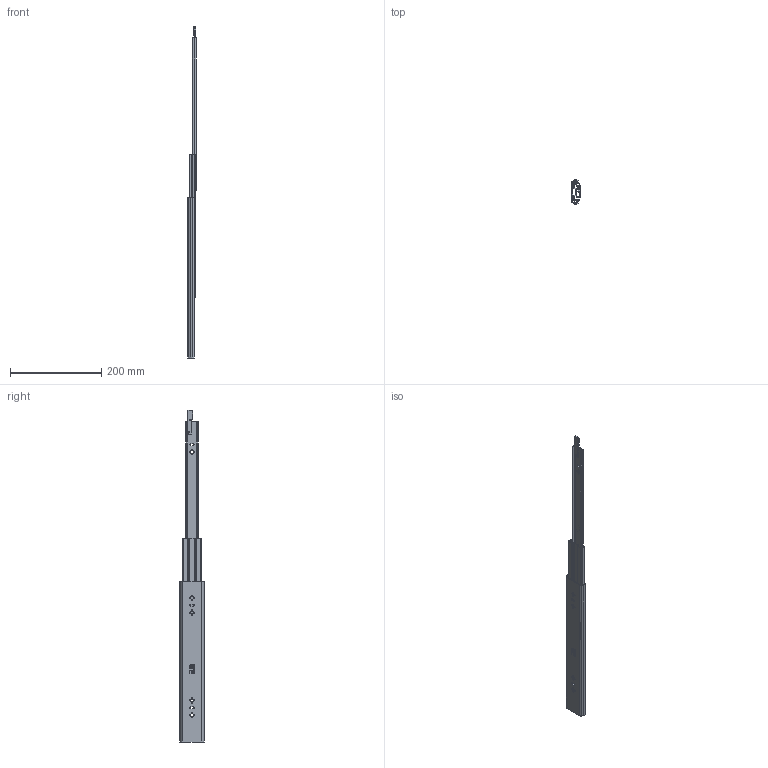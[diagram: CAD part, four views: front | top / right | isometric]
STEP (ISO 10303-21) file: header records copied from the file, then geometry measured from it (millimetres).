
FILE_DESCRIPTION (( 'STEP AP214' ), '1' );
FILE_NAME ('DSCHMD350MML-OPEN.STEP', '2018-11-27T07:43:57', ( '' ), ( '' ), 'SwSTEP 2.0', 'SolidWorks 2017', '' );
FILE_SCHEMA (( 'AUTOMOTIVE_DESIGN' ));
Length unit declared in the file: millimetre
Products named in the file (5): DSCHMDL-2_350; DSCHMDL-1_350; DSCHMD350MML-OPEN; DSCHMDL-3_350; DSCHMDL-4
Assembly tree (4 placements, depth 2):
  DSCHMD350MML-OPEN
    DSCHMDL-3_350
    DSCHMDL-2_350
    DSCHMDL-1_350
    DSCHMDL-4
Bounding box: 18.7 x 53 x 726.1 mm (x, y, z)
Volume: 115515.7 mm3; surface area: 121059.7 mm2
Topology: 4 solids, 4 shells, 902 faces, 2468 edges, 1636 vertices
Faces by surface type: plane 504, bspline 237, cylinder 125, cone 28, torus 4, sphere 4
Entity records: 30512 total; most frequent: CARTESIAN_POINT 8606, ORIENTED_EDGE 4928, DIRECTION 3562, EDGE_CURVE 2464, VECTOR 1650, LINE 1650, VERTEX_POINT 1636, EDGE_LOOP 994
